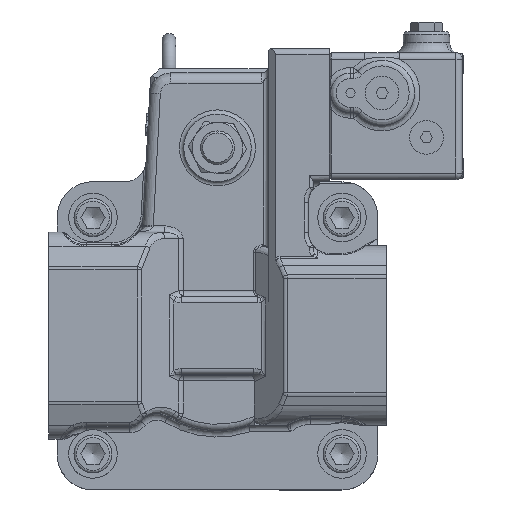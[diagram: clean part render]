
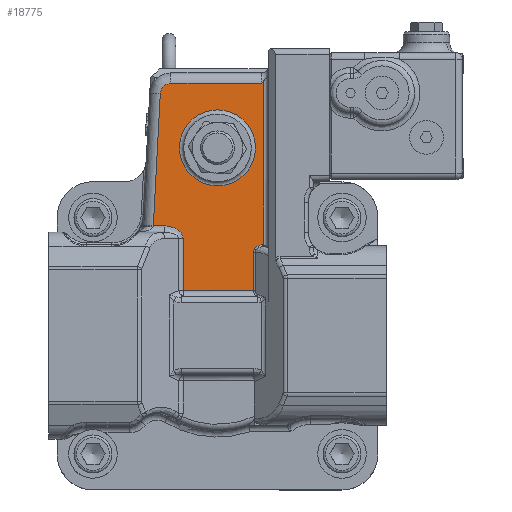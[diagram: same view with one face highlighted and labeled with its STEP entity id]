
A CAD part, top view. The second image highlights one B-rep face of the part: STEP entity #18775.
In plain terms, the highlighted planar face has unit normal (0, 0, 1).
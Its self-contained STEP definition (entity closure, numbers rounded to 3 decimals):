
#15341=CARTESIAN_POINT('',(-25.116,52.,209.7));
#15342=VERTEX_POINT('',#15341);
#15351=CARTESIAN_POINT('',(-16.318,46.,209.7));
#15352=VERTEX_POINT('',#15351);
#15360=CARTESIAN_POINT('',(-25.116,46.,209.7));
#15361=DIRECTION('',(0.0,0.0,1.0));
#15362=DIRECTION('',(1.0,0.0,0.0));
#15363=AXIS2_PLACEMENT_3D('',#15360,#15361,#15362);
#15364=ELLIPSE('',#15363,8.798,6.);
#15365=EDGE_CURVE('',#15352,#15342,#15364,.T.);
#15438=CARTESIAN_POINT('',(-30.398,52.,209.7));
#15439=VERTEX_POINT('',#15438);
#15472=CARTESIAN_POINT('',(-27.108,114.762,209.7));
#15473=VERTEX_POINT('',#15472);
#15474=CARTESIAN_POINT('',(-30.398,52.,209.7));
#15475=DIRECTION('',(0.052,0.999,0.0));
#15476=VECTOR('',#15475,62.848);
#15477=LINE('',#15474,#15476);
#15478=EDGE_CURVE('',#15439,#15473,#15477,.T.);
#15532=CARTESIAN_POINT('',(-22.115,119.5,209.7));
#15533=VERTEX_POINT('',#15532);
#15534=CARTESIAN_POINT('',(-22.115,114.5,209.7));
#15535=DIRECTION('',(0.,0.,-1.0));
#15536=DIRECTION('',(-0.688,0.725,0.));
#15537=AXIS2_PLACEMENT_3D('',#15534,#15535,#15536);
#15538=CIRCLE('',#15537,5.0);
#15539=EDGE_CURVE('',#15473,#15533,#15538,.T.);
#15588=CARTESIAN_POINT('',(21.,119.5,209.7));
#15589=VERTEX_POINT('',#15588);
#15599=CARTESIAN_POINT('',(-22.115,119.5,209.7));
#15600=DIRECTION('',(1.0,0.0,0.0));
#15601=VECTOR('',#15600,43.115);
#15602=LINE('',#15599,#15601);
#15603=EDGE_CURVE('',#15533,#15589,#15602,.T.);
#15613=CARTESIAN_POINT('',(22.,120.821,209.7));
#15614=VERTEX_POINT('',#15613);
#15615=CARTESIAN_POINT('',(21.,119.5,209.7));
#15616=CARTESIAN_POINT('',(21.32,119.914,209.7));
#15617=CARTESIAN_POINT('',(21.666,120.358,209.7));
#15618=CARTESIAN_POINT('',(22.,120.821,209.7));
#15619=B_SPLINE_CURVE_WITH_KNOTS('',3,(#15615,#15616,#15617,#15618),.UNSPECIFIED.,.F.,.U.,(4,4),(0.0,0.157),.UNSPECIFIED.);
#15620=EDGE_CURVE('',#15589,#15614,#15619,.T.);
#15820=CARTESIAN_POINT('',(-16.318,21.354,209.7));
#15821=VERTEX_POINT('',#15820);
#15831=CARTESIAN_POINT('',(-16.318,21.354,209.7));
#15832=DIRECTION('',(0.0,1.0,0.0));
#15833=VECTOR('',#15832,24.646);
#15834=LINE('',#15831,#15833);
#15835=EDGE_CURVE('',#15821,#15352,#15834,.T.);
#15877=CARTESIAN_POINT('',(17.116,21.354,209.7));
#15878=VERTEX_POINT('',#15877);
#15888=CARTESIAN_POINT('',(17.116,21.354,209.7));
#15889=DIRECTION('',(-1.0,0.0,0.0));
#15890=VECTOR('',#15889,33.434);
#15891=LINE('',#15888,#15890);
#15892=EDGE_CURVE('',#15878,#15821,#15891,.T.);
#16022=CARTESIAN_POINT('',(22.,42.917,209.7));
#16023=VERTEX_POINT('',#16022);
#16031=CARTESIAN_POINT('',(21.481,43.146,209.7));
#16032=VERTEX_POINT('',#16031);
#16033=CARTESIAN_POINT('',(22.,42.917,209.7));
#16034=CARTESIAN_POINT('',(21.919,42.955,209.7));
#16035=CARTESIAN_POINT('',(21.837,42.991,209.7));
#16036=CARTESIAN_POINT('',(21.755,43.028,209.7));
#16037=CARTESIAN_POINT('',(21.664,43.068,209.7));
#16038=CARTESIAN_POINT('',(21.573,43.107,209.7));
#16039=CARTESIAN_POINT('',(21.481,43.146,209.7));
#16040=B_SPLINE_CURVE_WITH_KNOTS('',3,(#16033,#16034,#16035,#16036,#16037,#16038,#16039),.UNSPECIFIED.,.F.,.U.,(4,3,4),(-0.056,-0.029,0.001),.UNSPECIFIED.);
#16041=EDGE_CURVE('',#16023,#16032,#16040,.T.);
#16093=CARTESIAN_POINT('',(21.,43.082,209.7));
#16094=VERTEX_POINT('',#16093);
#16095=CARTESIAN_POINT('',(21.481,43.146,209.7));
#16096=CARTESIAN_POINT('',(21.32,43.13,209.7));
#16097=CARTESIAN_POINT('',(21.159,43.109,209.7));
#16098=CARTESIAN_POINT('',(21.,43.082,209.7));
#16099=B_SPLINE_CURVE_WITH_KNOTS('',3,(#16095,#16096,#16097,#16098),.UNSPECIFIED.,.F.,.U.,(4,4),(-0.619,-0.57),.UNSPECIFIED.);
#16100=EDGE_CURVE('',#16032,#16094,#16099,.T.);
#16102=CARTESIAN_POINT('',(17.116,39.499,209.7));
#16103=VERTEX_POINT('',#16102);
#16104=CARTESIAN_POINT('',(21.,43.082,209.7));
#16105=CARTESIAN_POINT('',(20.285,42.959,209.7));
#16106=CARTESIAN_POINT('',(19.024,42.526,209.7));
#16107=CARTESIAN_POINT('',(17.539,41.253,209.7));
#16108=CARTESIAN_POINT('',(17.116,40.089,209.7));
#16109=CARTESIAN_POINT('',(17.116,39.499,209.7));
#16110=B_SPLINE_CURVE_WITH_KNOTS('',3,(#16104,#16105,#16106,#16107,#16108,#16109),.UNSPECIFIED.,.F.,.U.,(4,1,1,4),(-0.57,-0.354,-0.177,0.0),.UNSPECIFIED.);
#16111=EDGE_CURVE('',#16094,#16103,#16110,.T.);
#16130=CARTESIAN_POINT('',(17.116,39.499,209.7));
#16131=DIRECTION('',(0.0,-1.0,0.0));
#16132=VECTOR('',#16131,18.145);
#16133=LINE('',#16130,#16132);
#16134=EDGE_CURVE('',#16103,#15878,#16133,.T.);
#17507=CARTESIAN_POINT('',(-25.116,52.,209.7));
#17508=DIRECTION('',(-1.0,0.0,0.0));
#17509=VECTOR('',#17508,5.282);
#17510=LINE('',#17507,#17509);
#17511=EDGE_CURVE('',#15342,#15439,#17510,.T.);
#18241=CARTESIAN_POINT('',(18.,89.,209.7));
#18242=VERTEX_POINT('',#18241);
#18243=CARTESIAN_POINT('',(0.,89.,209.7));
#18244=DIRECTION('',(0.0,0.0,1.0));
#18245=DIRECTION('',(-1.0,0.0,0.0));
#18246=AXIS2_PLACEMENT_3D('',#18243,#18244,#18245);
#18247=CIRCLE('',#18246,18.0);
#18248=EDGE_CURVE('',#18242,#18242,#18247,.T.);
#18747=CARTESIAN_POINT('',(-2.261,42.265,209.7));
#18748=DIRECTION('',(0.0,0.0,1.0));
#18749=DIRECTION('',(1.0,0.0,0.0));
#18750=AXIS2_PLACEMENT_3D('',#18747,#18748,#18749);
#18751=PLANE('',#18750);
#18752=CARTESIAN_POINT('',(22.,120.821,209.7));
#18753=DIRECTION('',(0.0,-1.0,0.0));
#18754=VECTOR('',#18753,77.904);
#18755=LINE('',#18752,#18754);
#18756=EDGE_CURVE('',#15614,#16023,#18755,.T.);
#18757=ORIENTED_EDGE('',*,*,#18756,.F.);
#18758=ORIENTED_EDGE('',*,*,#15620,.F.);
#18759=ORIENTED_EDGE('',*,*,#15603,.F.);
#18760=ORIENTED_EDGE('',*,*,#15539,.F.);
#18761=ORIENTED_EDGE('',*,*,#15478,.F.);
#18762=ORIENTED_EDGE('',*,*,#17511,.F.);
#18763=ORIENTED_EDGE('',*,*,#15365,.F.);
#18764=ORIENTED_EDGE('',*,*,#15835,.F.);
#18765=ORIENTED_EDGE('',*,*,#15892,.F.);
#18766=ORIENTED_EDGE('',*,*,#16134,.F.);
#18767=ORIENTED_EDGE('',*,*,#16111,.F.);
#18768=ORIENTED_EDGE('',*,*,#16100,.F.);
#18769=ORIENTED_EDGE('',*,*,#16041,.F.);
#18770=EDGE_LOOP('',(#18757,#18758,#18759,#18760,#18761,#18762,#18763,#18764,#18765,#18766,#18767,#18768,#18769));
#18771=FACE_OUTER_BOUND('',#18770,.T.);
#18772=ORIENTED_EDGE('',*,*,#18248,.F.);
#18773=EDGE_LOOP('',(#18772));
#18774=FACE_BOUND('',#18773,.T.);
#18775=ADVANCED_FACE('',(#18771,#18774),#18751,.T.);
